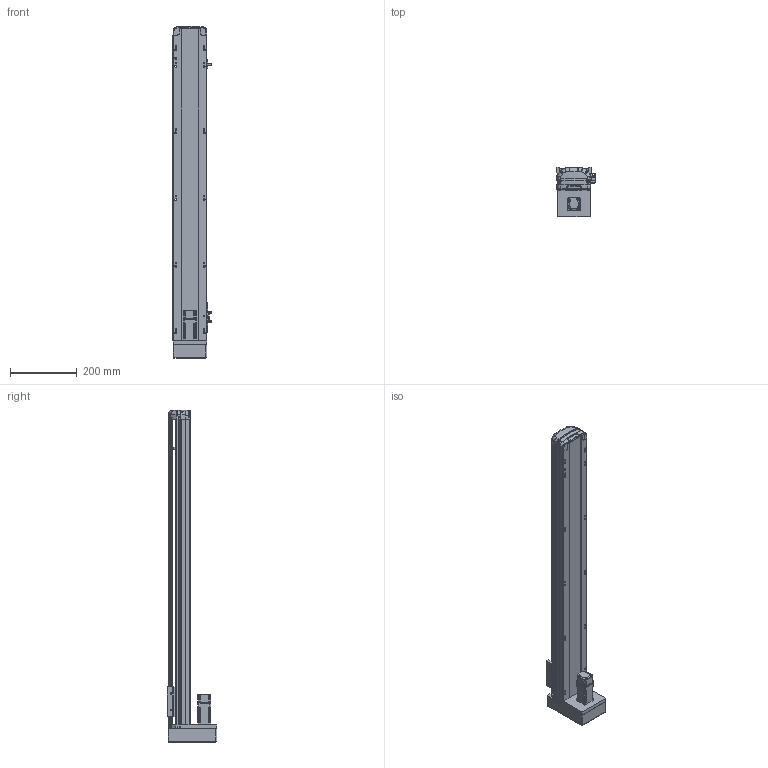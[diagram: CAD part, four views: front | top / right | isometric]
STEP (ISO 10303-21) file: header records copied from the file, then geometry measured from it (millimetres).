
FILE_DESCRIPTION (( 'STEP AP214' ), '1' );
FILE_NAME ('RTH10-XX-750-M-M10-C4.STEP', '2025-10-25T05:46:52', ( 'Microsoft' ), ( 'Microsoft' ), 'SwSTEP 2.0', 'SolidWorks 2018', '' );
FILE_SCHEMA (( 'AUTOMOTIVE_DESIGN' ));
Length unit declared in the file: millimetre
Products named in the file (10): RTH10-XX-750-M-M10-C4; N_RTH12-M-008-萇儂啣^RTH10-XX-100-M-M10-C4; N_OMRON EE-SX672 传感器^RTH10-XX-100-M-M10-C4; N_RTH13-L-012覜茼え俋离^RTH10-XX-100-M-M10-C4; N_RTH12-GY-001P^RTH10-XX-100-M-M10-C4; N_RTH12-M-011P-臏倰第菁釱^RTH10-XX-100-M-M10-C4; N_P10^RTH10-XX-100-M-M10-C4; N_RTH12-M-007P-奻裔^RTH10-XX-100-M-M10-C4; N_RTH12-GY-004-賑釱^RTH10-XX-100-M-M10-C4; N_RTH12-M-018-裔赽^RTH10-XX-100-M-M10-C4
Assembly tree (11 placements, depth 2):
  RTH10-XX-750-M-M10-C4
    N_RTH12-M-011P-臏倰第菁釱^RTH10-XX-100-M-M10-C4
    N_RTH13-L-012覜茼え俋离^RTH10-XX-100-M-M10-C4
    N_OMRON EE-SX672 传感器^RTH10-XX-100-M-M10-C4  x3
    N_P10^RTH10-XX-100-M-M10-C4
    N_RTH12-M-007P-奻裔^RTH10-XX-100-M-M10-C4
    N_RTH12-M-008-萇儂啣^RTH10-XX-100-M-M10-C4
    N_RTH12-M-018-裔赽^RTH10-XX-100-M-M10-C4
    N_RTH12-GY-004-賑釱^RTH10-XX-100-M-M10-C4
    N_RTH12-GY-001P^RTH10-XX-100-M-M10-C4
Bounding box: 116.5 x 149 x 997.31 mm (x, y, z)
Volume: 4491218.5 mm3; surface area: 675955.7 mm2
Topology: 10 solids, 12 shells, 1953 faces, 5461 edges, 3583 vertices
Faces by surface type: plane 959, cylinder 487, bspline 472, cone 29, sphere 4, torus 2
Entity records: 59009 total; most frequent: CARTESIAN_POINT 23387, ORIENTED_EDGE 7994, DIRECTION 6159, EDGE_CURVE 4003, VERTEX_POINT 2627, LINE 2097, VECTOR 2097, AXIS2_PLACEMENT_3D 2031
